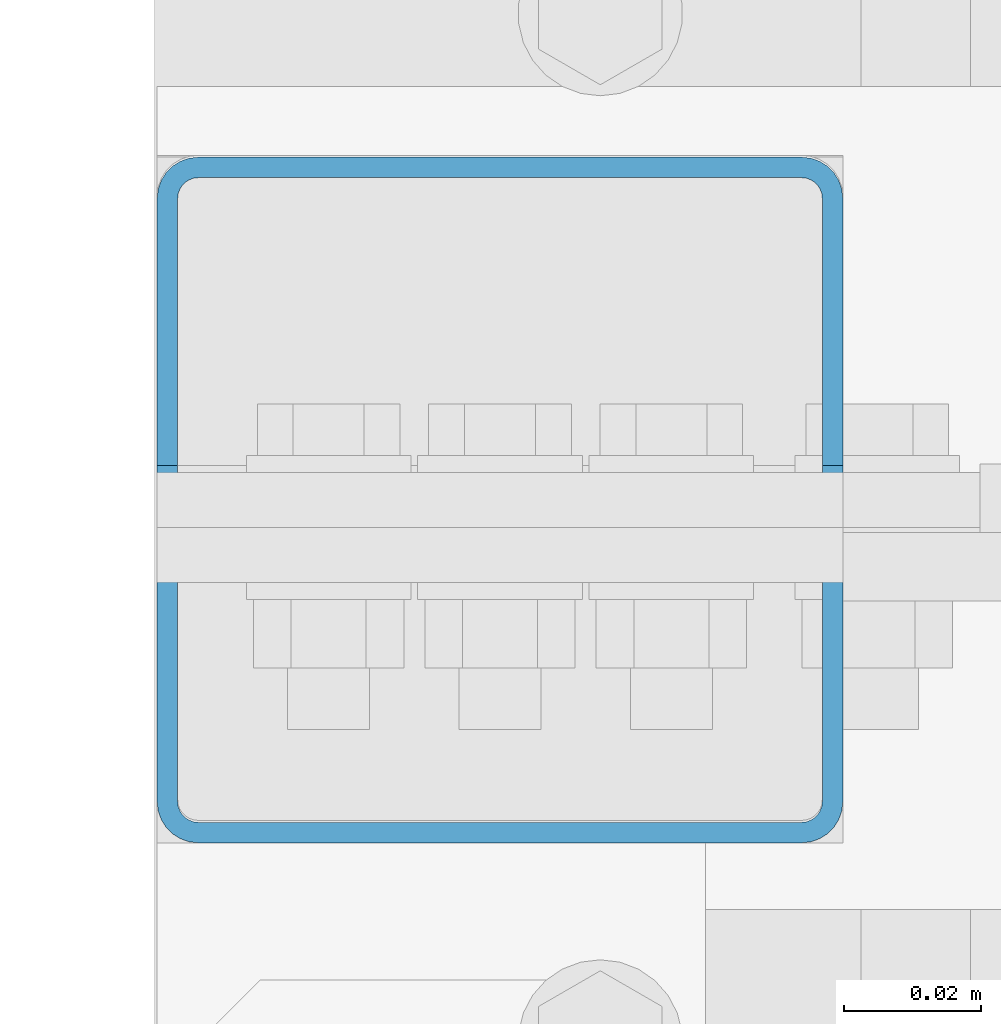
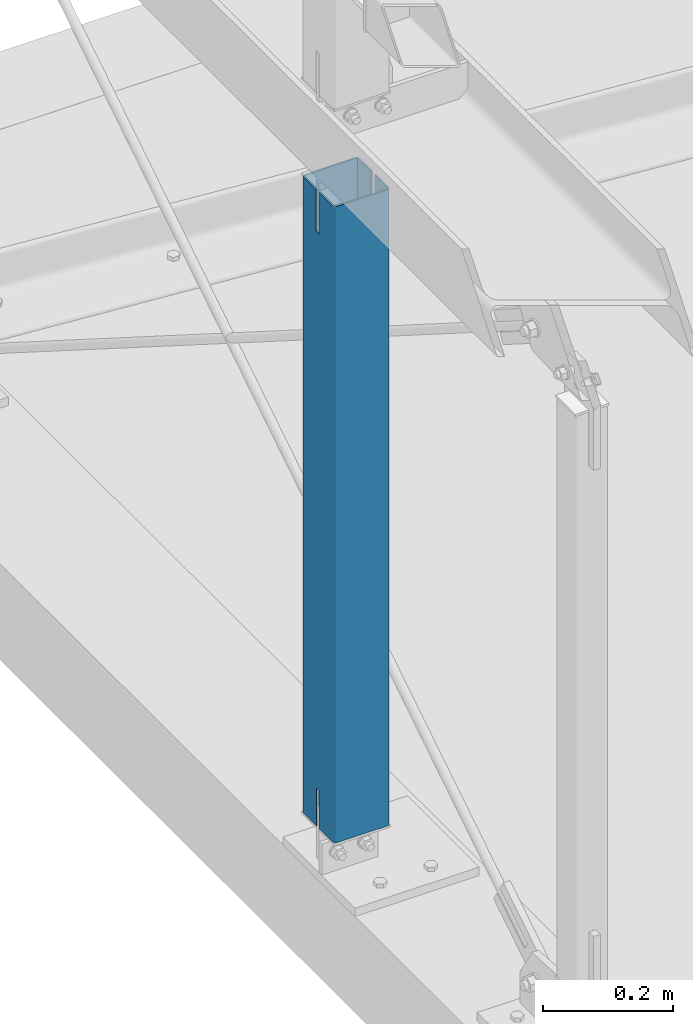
# One storey, part 14 of 271: 1 beam, 1 element without a shape of its own.
"""IFC2X3 building model written with IfcOpenShell, lengths in millimetres."""

from ifc_helpers import new_model, si_unit, frame, origin_with_axes, origin_2d_with_axis, place, context, subcontext, project, spatial, polyline, hollow_rectangle, outline, extrude, boolean, material, type_object, element, aggregate, save


model = new_model("IFC2X3")

# Units and contexts
model_context = context("Model", 3, precision=1e-05, world=origin_with_axes())
body_context = subcontext(model_context, "Body", "Model", "MODEL_VIEW")
ifc_project = project(units=[si_unit("LENGTHUNIT", "METRE", prefix="MILLI"), si_unit("AREAUNIT", "SQUARE_METRE"), si_unit("VOLUMEUNIT", "CUBIC_METRE"), si_unit("MASSUNIT", "GRAM", prefix="KILO"), si_unit("TIMEUNIT", "SECOND"), si_unit("PLANEANGLEUNIT", "RADIAN"), si_unit("SOLIDANGLEUNIT", "STERADIAN"), si_unit("THERMODYNAMICTEMPERATUREUNIT", "DEGREE_CELSIUS"), si_unit("LUMINOUSINTENSITYUNIT", "LUMEN")], contexts=[model_context])

# Site, building, storey
site_placement = place(None, origin_with_axes())
site = spatial("IfcSite", under=ifc_project, at=site_placement, Name="Undefined", CompositionType="ELEMENT")
building_placement = place(site_placement, origin_with_axes())
building = spatial("IfcBuilding", under=site, at=building_placement, Name="Undefined", CompositionType="ELEMENT")
storey_placement = place(building_placement, origin_with_axes())
storey = spatial("IfcBuildingStorey", under=building, at=storey_placement, Name="Undefined", CompositionType="ELEMENT", Elevation=0.0)

# Assembly, beam
assembly_placement = place(storey_placement, origin_with_axes())
assembly = element("IfcElementAssembly", 1, at=assembly_placement, inside=storey, AssemblyPlace="NOTDEFINED", PredefinedType="RIGID_FRAME")
ifc_material = material(Name="STEEL/S355JR")
beam_type = type_object("IfcBeamType", Name="SHS100*3", PredefinedType="NOTDEFINED")
beam_placement = place(assembly_placement, frame((38.3756870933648, 2799.05211980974, 81.8499999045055), z_axis=(0.0, 1.0, 0.0), x_axis=(0.0, 0.0, 1.0)))
beam = element("IfcBeam", 2, at=beam_placement, type_object=beam_type, material=ifc_material, Name="RYGIEL", ObjectType="SHS100*3", context=body_context, shape_type="CSG", body=[
    boolean("DIFFERENCE", boolean("DIFFERENCE", extrude(hollow_rectangle(XDim=100.0, YDim=100.0, WallThickness=3.0, InnerFilletRadius=3.0, OuterFilletRadius=6.0, at=origin_2d_with_axis()), frame((1191.0, 0.0, 0.0), z_axis=(-1.0, 0.0, 1.38777878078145e-17), x_axis=(0.0, -1.0, 0.0)), (0.0, 0.0, 1.0), 1191.0), extrude(outline(polyline([(0.0, 0.0), (130.0, -1.68906158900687e-12), (140.0, 9.99999999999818), (140.0, 90.0), (130.0, 100.0), (1.59161572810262e-12, 100.0), (0.0, 0.0)])), frame((71.0000000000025, 49.9999999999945, -3.99986444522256), z_axis=(0.0, 0.0, 1.0), x_axis=(-1.0, 0.0, 1.38777878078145e-17)), (0.0, 0.0, 1.0), 8.0)), extrude(outline(polyline([(0.0, 40.0), (80.0, 0.0), (151.0, -1.91135995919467e-12), (151.0, 120.0), (91.0, 120.0), (91.0, 150.0), (1.4210854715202e-14, 150.0), (0.0, 40.0)])), frame((1114.0, 99.9999999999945, 5.00000000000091), z_axis=(0.0, 0.0, -1.0), x_axis=(1.0, 0.0, 0.0)), (0.0, 0.0, 1.0), 10.0)),
])
aggregate(assembly, [beam])

save(model, "model.ifc")
